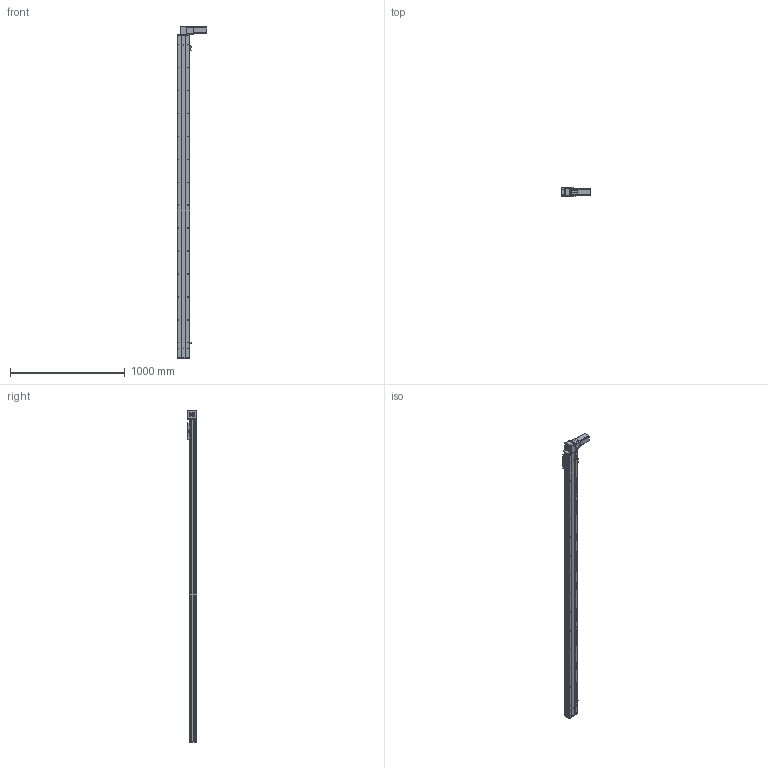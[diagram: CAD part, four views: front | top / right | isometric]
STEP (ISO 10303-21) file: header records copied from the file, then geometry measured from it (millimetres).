
FILE_DESCRIPTION (( 'STEP AP203' ), '1' );
FILE_NAME ('Y10CB-D90-S2550-BD-P400W.STEP', '2020-02-17T03:05:59', ( '微软用户' ), ( '微软中国' ), 'SwSTEP 2.0', 'SolidWorks 2017', '' );
FILE_SCHEMA (( 'CONFIG_CONTROL_DESIGN' ));
Length unit declared in the file: millimetre
Products named in the file (16): Y135C-陔俋离換覜結え-; san松下电机400不带刹车----; Y100-135俋离換覜ん--; 0B-源倛裔啣; Y10B--々湍喘謫眊--666; 0B-埴倛裔啣; 0B-薊粣ん眊; 10CB-詩湍-; Y10CB-D90-S2550-BD-P400W; Y10CB- 掛极耜裔啣-毀---; Y10C---詩湍揤啣; 0CB-雄赽釱---; 10CB9-掛极; 0Cb-俋欶---; 10CB-耜裔; Y10B-々湍喘謫眊楊擘啣--
Assembly tree (19 placements, depth 2):
  Y10CB-D90-S2550-BD-P400W
    0CB-雄赽釱---
    0Cb-俋欶---
    Y10B-々湍喘謫眊楊擘啣--
    san松下电机400不带刹车----
    0B-源倛裔啣
    0B-埴倛裔啣
    10CB-詩湍-
    Y10CB- 掛极耜裔啣-毀---  x2
    Y10C---詩湍揤啣  x2
    10CB9-掛极
    10CB-耜裔
    Y135C-陔俋离換覜結え-
    Y100-135俋离換覜ん--  x3
    Y10B--々湍喘謫眊--666
    0B-薊粣ん眊
Bounding box: 258 x 80.5 x 2896 mm (x, y, z)
Volume: 5840826.8 mm3; surface area: 2732494.5 mm2
Topology: 19 solids, 19 shells, 996 faces, 2702 edges, 1748 vertices
Faces by surface type: cylinder 520, plane 452, cone 24
Entity records: 31569 total; most frequent: CARTESIAN_POINT 6088, DIRECTION 5001, ORIENTED_EDGE 4874, EDGE_CURVE 2437, AXIS2_PLACEMENT_3D 1791, VERTEX_POINT 1574, VECTOR 1419, LINE 1419
